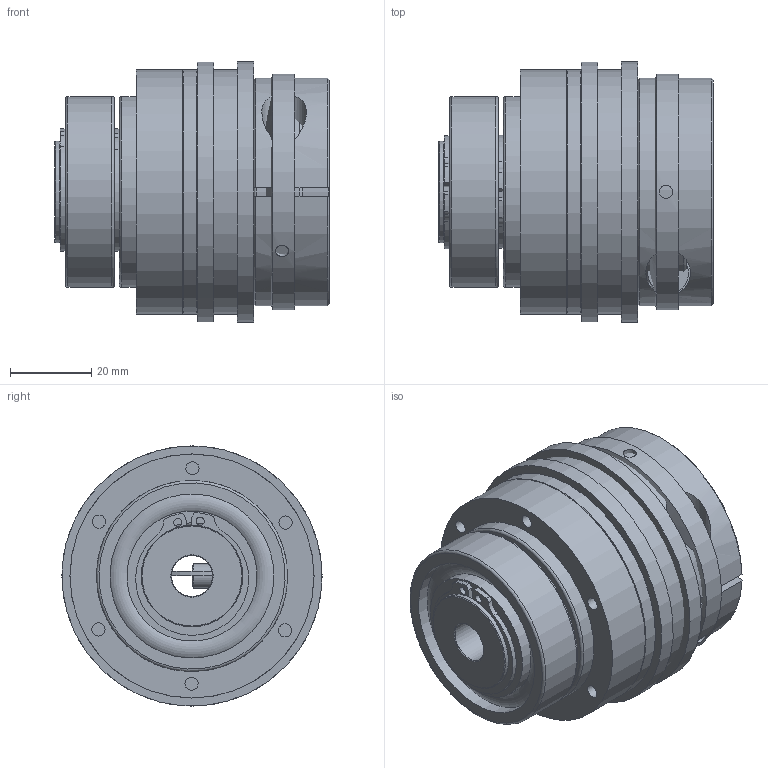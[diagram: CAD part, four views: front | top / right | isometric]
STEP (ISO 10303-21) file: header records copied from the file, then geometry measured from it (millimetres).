
FILE_DESCRIPTION( ( 'Unknown' ), '1' );
FILE_NAME( 'C:/Dokumente und Einstellungen/Sven/Desktop/hp kbk/KBK LL-K-30.stp', 'Unknown', ( 'Unknown' ), ( 'Unknown' ), 'XStep 1.0', 'Unknown', ' ' );
FILE_SCHEMA( ( 'automotive_design' ) );
Length unit declared in the file: millimetre
Products named in the file (13): Assem1; Assem2; Assem3; ball_bearing_-_6005_0_01; ball_bearing_-_6005_0_02; ball_bearing_-_6005_0_03; Zylinderschraube DIN 912_0_0; Stellring 30; Druckring 30; a_25; Klemmnabe 30; LL-K-30 Grundkörper; Flansch L30
Bounding box: 67.5 x 64 x 64 mm (x, y, z)
Volume: 274196.6 mm3; surface area: 127407.8 mm2
Topology: 28 solids, 28 shells, 321 faces, 684 edges, 443 vertices
Faces by surface type: plane 130, cylinder 126, cone 33, torus 32
Full cylindrical faces by diameter (mm): 2 x6, 3.242 x18, 4.917 x2, 6 x3, 6.4 x2, 10 x5, 11 x2, 23.9 x4, 25 x10, 30 x2, 32 x8, 34 x2, 38 x4, 40 x2, 40.3 x8, 47 x6, 52 x2, 58 x2, 60 x4, 64 x2
Entity records: 3860 total; most frequent: CARTESIAN_POINT 1014, DIRECTION 576, ORIENTED_EDGE 402, AXIS2_PLACEMENT_3D 259, EDGE_LOOP 228, EDGE_CURVE 201, FACE_OUTER_BOUND 175, VERTEX_POINT 165
